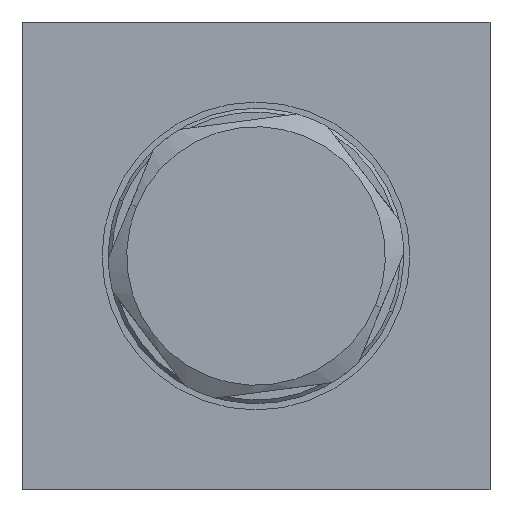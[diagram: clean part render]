
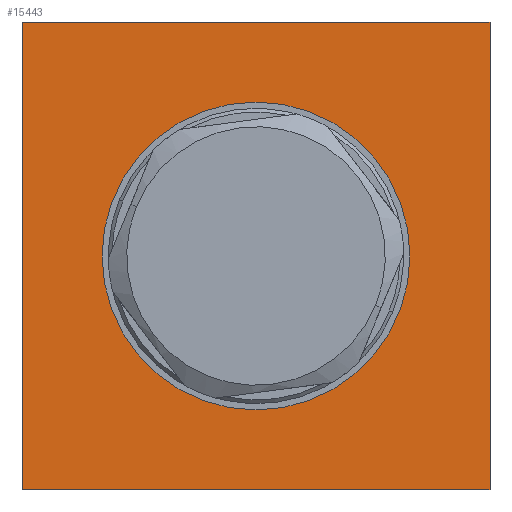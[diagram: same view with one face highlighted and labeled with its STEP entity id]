
A CAD part, left-side view. The second image highlights one B-rep face of the part: STEP entity #15443.
In plain terms, the highlighted planar face has unit normal (-1, 0, 0).
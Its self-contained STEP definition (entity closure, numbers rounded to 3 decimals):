
#899 = PLANE ( 'NONE',  #16715 ) ;
#1110 = CARTESIAN_POINT ( 'NONE',  ( 0., -19., -19. ) ) ;
#1332 = CIRCLE ( 'NONE', #4865, 12.5 ) ;
#1743 = ORIENTED_EDGE ( 'NONE', *, *, #5829, .F. ) ;
#1771 = VECTOR ( 'NONE', #14983, 1000. ) ;
#2313 = EDGE_CURVE ( 'NONE', #5473, #3905, #21859, .T. ) ;
#3013 = EDGE_CURVE ( 'NONE', #3905, #8785, #12729, .T. ) ;
#3023 = VERTEX_POINT ( 'NONE', #10487 ) ;
#3209 = CARTESIAN_POINT ( 'NONE',  ( 0., 0., 0. ) ) ;
#3905 = VERTEX_POINT ( 'NONE', #1110 ) ;
#4865 = AXIS2_PLACEMENT_3D ( 'NONE', #3209, #8828, #18452 ) ;
#4909 = VECTOR ( 'NONE', #8901, 1000. ) ;
#4965 = DIRECTION ( 'NONE',  ( -1., 0., 0. ) ) ;
#5287 = ORIENTED_EDGE ( 'NONE', *, *, #20158, .F. ) ;
#5473 = VERTEX_POINT ( 'NONE', #16371 ) ;
#5829 = EDGE_CURVE ( 'NONE', #8087, #15975, #1332, .T. ) ;
#6028 = ORIENTED_EDGE ( 'NONE', *, *, #3013, .F. ) ;
#6527 = DIRECTION ( 'NONE',  ( 1., 0., 0. ) ) ;
#6550 = VECTOR ( 'NONE', #13491, 1000. ) ;
#6593 = LINE ( 'NONE', #14573, #1771 ) ;
#6915 = CARTESIAN_POINT ( 'NONE',  ( 0., 19., 19. ) ) ;
#6920 = CARTESIAN_POINT ( 'NONE',  ( 0., -12.5, 0. ) ) ;
#7296 = ORIENTED_EDGE ( 'NONE', *, *, #2313, .F. ) ;
#7360 = ORIENTED_EDGE ( 'NONE', *, *, #8216, .F. ) ;
#7677 = ORIENTED_EDGE ( 'NONE', *, *, #9390, .F. ) ;
#8087 = VERTEX_POINT ( 'NONE', #9901 ) ;
#8216 = EDGE_CURVE ( 'NONE', #15975, #8087, #20656, .T. ) ;
#8660 = DIRECTION ( 'NONE',  ( 0., 1., 0. ) ) ;
#8785 = VERTEX_POINT ( 'NONE', #14179 ) ;
#8828 = DIRECTION ( 'NONE',  ( -1., 0., 0. ) ) ;
#8901 = DIRECTION ( 'NONE',  ( 0., 0., 1. ) ) ;
#9390 = EDGE_CURVE ( 'NONE', #3023, #5473, #6593, .T. ) ;
#9402 = FACE_BOUND ( 'NONE', #10944, .T. ) ;
#9901 = CARTESIAN_POINT ( 'NONE',  ( 0., 12.5, 0. ) ) ;
#10282 = FACE_OUTER_BOUND ( 'NONE', #16828, .T. ) ;
#10487 = CARTESIAN_POINT ( 'NONE',  ( 0., 19., 19. ) ) ;
#10611 = DIRECTION ( 'NONE',  ( 0., -1., 0. ) ) ;
#10877 = LINE ( 'NONE', #6915, #4909 ) ;
#10944 = EDGE_LOOP ( 'NONE', ( #7360, #1743 ) ) ;
#11554 = CARTESIAN_POINT ( 'NONE',  ( 0., -19., 19. ) ) ;
#12729 = LINE ( 'NONE', #17979, #13005 ) ;
#13005 = VECTOR ( 'NONE', #8660, 1000. ) ;
#13491 = DIRECTION ( 'NONE',  ( 0., 0., -1. ) ) ;
#14029 = CARTESIAN_POINT ( 'NONE',  ( 0., -19., 19. ) ) ;
#14179 = CARTESIAN_POINT ( 'NONE',  ( 0., 19., -19. ) ) ;
#14573 = CARTESIAN_POINT ( 'NONE',  ( 0., 19., 19. ) ) ;
#14588 = AXIS2_PLACEMENT_3D ( 'NONE', #24065, #4965, #10611 ) ;
#14983 = DIRECTION ( 'NONE',  ( 0., -1., 0. ) ) ;
#15443 = ADVANCED_FACE ( 'NONE', ( #10282, #9402 ), #899, .F. ) ;
#15975 = VERTEX_POINT ( 'NONE', #6920 ) ;
#16371 = CARTESIAN_POINT ( 'NONE',  ( 0., -19., 19. ) ) ;
#16715 = AXIS2_PLACEMENT_3D ( 'NONE', #14029, #6527, #19697 ) ;
#16828 = EDGE_LOOP ( 'NONE', ( #7677, #5287, #6028, #7296 ) ) ;
#17979 = CARTESIAN_POINT ( 'NONE',  ( 0., 19., -19. ) ) ;
#18452 = DIRECTION ( 'NONE',  ( 0., -1., 0. ) ) ;
#19697 = DIRECTION ( 'NONE',  ( 0., 0., -1. ) ) ;
#20158 = EDGE_CURVE ( 'NONE', #8785, #3023, #10877, .T. ) ;
#20656 = CIRCLE ( 'NONE', #14588, 12.5 ) ;
#21859 = LINE ( 'NONE', #11554, #6550 ) ;
#24065 = CARTESIAN_POINT ( 'NONE',  ( 0., 0., 0. ) ) ;
